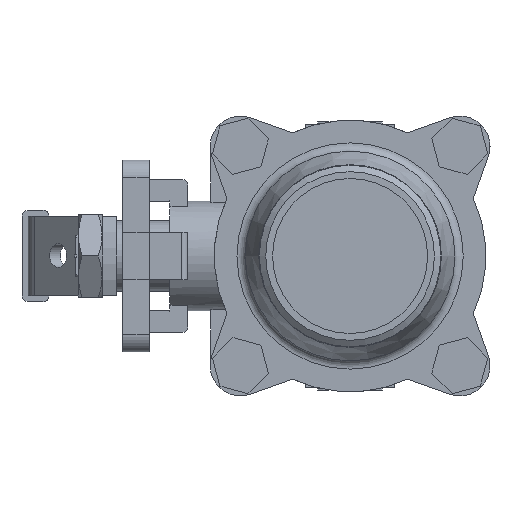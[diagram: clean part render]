
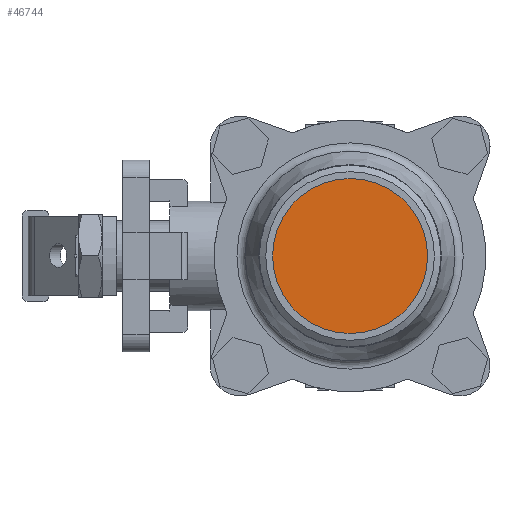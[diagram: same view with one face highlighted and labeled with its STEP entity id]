
A CAD part, left-side view. The second image highlights one B-rep face of the part: STEP entity #46744.
In plain terms, the highlighted planar face has unit normal (-1, 0, 0).
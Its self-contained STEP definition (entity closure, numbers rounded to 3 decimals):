
#46721=CARTESIAN_POINT('',(-72.0,0.,26.25));
#46722=VERTEX_POINT('',#46721);
#46723=CARTESIAN_POINT('',(-72.0,0.,0.0));
#46724=DIRECTION('',(-1.0,0.0,0.0));
#46725=DIRECTION('',(0.0,0.0,-1.0));
#46726=AXIS2_PLACEMENT_3D('',#46723,#46724,#46725);
#46727=CIRCLE('',#46726,26.25);
#46728=EDGE_CURVE('',#46722,#46722,#46727,.T.);
#46736=CARTESIAN_POINT('',(-72.0,0.,0.0));
#46737=DIRECTION('',(1.0,0.0,0.0));
#46738=DIRECTION('',(0.0,0.0,-1.0));
#46739=AXIS2_PLACEMENT_3D('',#46736,#46737,#46738);
#46740=PLANE('',#46739);
#46741=ORIENTED_EDGE('',*,*,#46728,.T.);
#46742=EDGE_LOOP('',(#46741));
#46743=FACE_OUTER_BOUND('',#46742,.T.);
#46744=ADVANCED_FACE('',(#46743),#46740,.F.);
